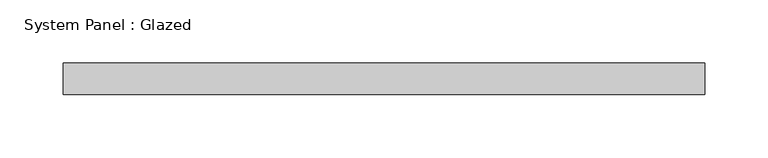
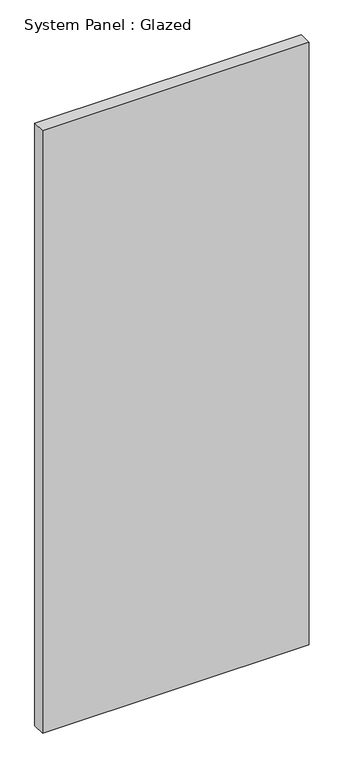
"""IFC4 building model written with IfcOpenShell, lengths in millimetres: plate geometry, System Panel : Glazed."""

from ifc_helpers import new_model, si_unit, origin, origin_with_axes, place, context, project, spatial, polyline, outline, extrude, source, transform, mapped, element, save


def system_panel_glazed_57bc2548(model_context):
    return source(origin(), model_context, "Body", "SweptSolid", [
        extrude(outline(polyline([(253.5950031, -12.5), (-253.5950031, -12.5), (-253.5950031, 12.5), (253.5950031, 12.5), (253.5950031, -12.5)])), origin_with_axes(), (0.0, 0.0, 1.0), 1210.0),
    ])


if __name__ == "__main__":
    model = new_model("IFC4")
    model_context = context("Model", 3, world=origin())
    ifc_project = project(units=[si_unit("LENGTHUNIT", "METRE", prefix="MILLI")], contexts=[model_context])
    site = spatial("IfcSite", under=ifc_project)
    building = spatial("IfcBuilding", under=site)
    placement = place(None, origin())
    system_panel_glazed_shape = system_panel_glazed_57bc2548(model_context)
    element("IfcPlate", 1, ObjectType="System Panel : Glazed", at=placement, inside=building, context=model_context, shape_type="MappedRepresentation", body=[
        mapped(system_panel_glazed_shape, transform((0.0, 0.0, 0.0), x_axis=(1.0, 0.0, 0.0), y_axis=(0.0, 1.0, 0.0), z_axis=(0.0, 0.0, 1.0))),
    ])
    save(model, "model.ifc")
